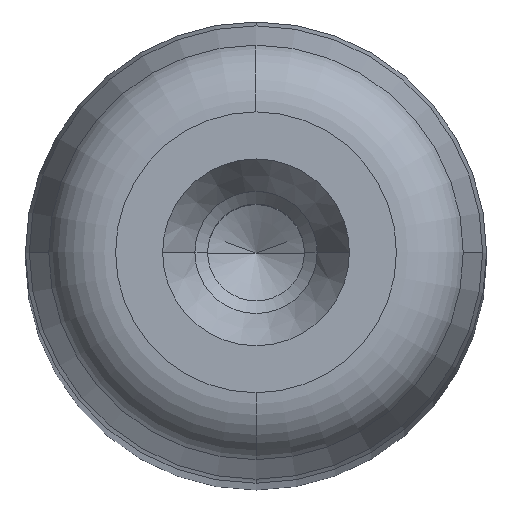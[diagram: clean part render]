
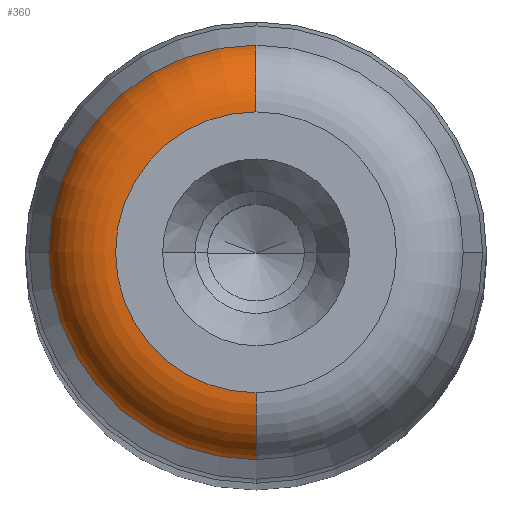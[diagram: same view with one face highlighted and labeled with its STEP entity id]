
A CAD part, top view. The second image highlights one B-rep face of the part: STEP entity #360.
In plain terms, the highlighted toroidal (fillet/blend) face has major radius 6.09 mm and minor radius 3 mm.
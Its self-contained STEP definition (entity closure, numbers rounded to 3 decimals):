
#308=CARTESIAN_POINT('',(0.0,177.0,0.0));
#309=DIRECTION('',(0.0,1.0,0.0));
#310=DIRECTION('',(0.0,0.0,1.0));
#311=AXIS2_PLACEMENT_3D('',#308,#309,#310);
#312=TOROIDAL_SURFACE('',#311,6.09,3.0);
#313=CARTESIAN_POINT('',(0.0,180.0,6.09));
#314=VERTEX_POINT('',#313);
#315=CARTESIAN_POINT('',(0.0,177.776,8.988));
#316=VERTEX_POINT('',#315);
#317=CARTESIAN_POINT('',(0.0,177.0,6.09));
#318=DIRECTION('',(1.0,0.0,0.0));
#319=DIRECTION('',(0.0,0.0,1.0));
#320=AXIS2_PLACEMENT_3D('',#317,#318,#319);
#321=CIRCLE('',#320,3.0);
#322=EDGE_CURVE('',#314,#316,#321,.T.);
#323=ORIENTED_EDGE('',*,*,#322,.F.);
#324=CARTESIAN_POINT('',(0.,180.0,-6.09));
#325=VERTEX_POINT('',#324);
#326=CARTESIAN_POINT('',(0.0,180.0,0.0));
#327=DIRECTION('',(0.0,1.0,0.0));
#328=DIRECTION('',(1.0,0.0,0.0));
#329=AXIS2_PLACEMENT_3D('',#326,#327,#328);
#330=CIRCLE('',#329,6.09);
#331=EDGE_CURVE('',#325,#314,#330,.T.);
#332=ORIENTED_EDGE('',*,*,#331,.F.);
#333=CARTESIAN_POINT('',(0.,177.776,-8.988));
#334=VERTEX_POINT('',#333);
#335=CARTESIAN_POINT('',(0.,177.0,-6.09));
#336=DIRECTION('',(-1.0,0.0,0.0));
#337=DIRECTION('',(0.0,0.0,-1.0));
#338=AXIS2_PLACEMENT_3D('',#335,#336,#337);
#339=CIRCLE('',#338,3.0);
#340=EDGE_CURVE('',#325,#334,#339,.T.);
#341=ORIENTED_EDGE('',*,*,#340,.T.);
#342=CARTESIAN_POINT('',(-8.988,177.776,0.));
#343=VERTEX_POINT('',#342);
#344=CARTESIAN_POINT('',(0.0,177.776,0.0));
#345=DIRECTION('',(0.0,1.0,0.0));
#346=DIRECTION('',(1.0,0.0,0.0));
#347=AXIS2_PLACEMENT_3D('',#344,#345,#346);
#348=CIRCLE('',#347,8.988);
#349=EDGE_CURVE('',#334,#343,#348,.T.);
#350=ORIENTED_EDGE('',*,*,#349,.T.);
#351=CARTESIAN_POINT('',(0.0,177.776,0.0));
#352=DIRECTION('',(0.0,1.0,0.0));
#353=DIRECTION('',(1.0,0.0,0.0));
#354=AXIS2_PLACEMENT_3D('',#351,#352,#353);
#355=CIRCLE('',#354,8.988);
#356=EDGE_CURVE('',#343,#316,#355,.T.);
#357=ORIENTED_EDGE('',*,*,#356,.T.);
#358=EDGE_LOOP('',(#323,#332,#341,#350,#357));
#359=FACE_OUTER_BOUND('',#358,.T.);
#360=ADVANCED_FACE('',(#359),#312,.T.);
